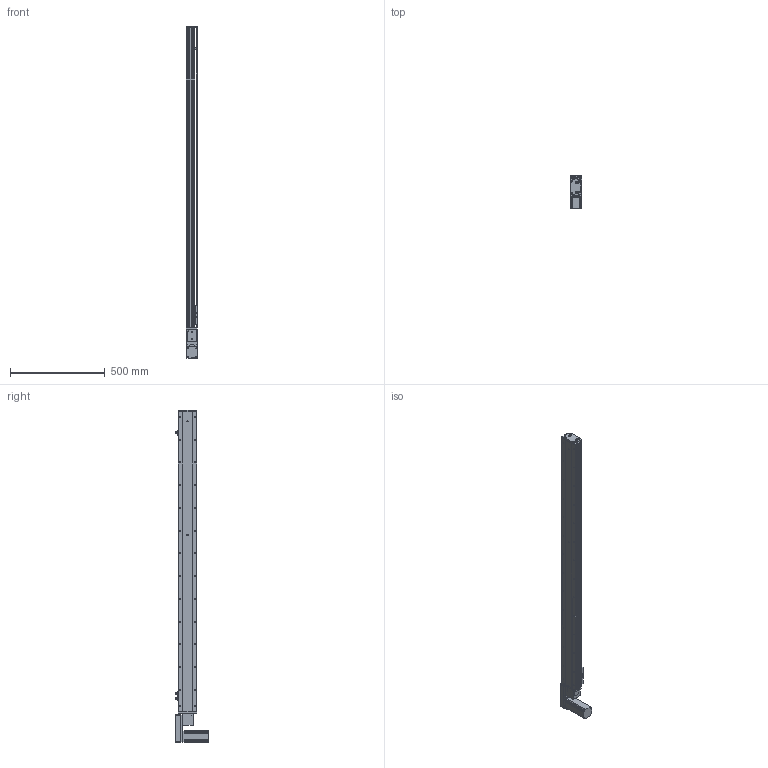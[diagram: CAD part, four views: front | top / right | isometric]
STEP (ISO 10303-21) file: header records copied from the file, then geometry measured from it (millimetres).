
FILE_DESCRIPTION (( 'STEP AP214' ), '1' );
FILE_NAME ('KSD100B-S1400-MLB-CM.STEP', '2019-08-31T02:23:05', ( '微软用户' ), ( '微软中国' ), 'SwSTEP 2.0', 'SolidWorks 2014', '' );
FILE_SCHEMA (( 'AUTOMOTIVE_DESIGN' ));
Length unit declared in the file: millimetre
Products named in the file (12): 悵誘欶奻狟殏; 100宽马达安装板连板上下折丝杆同步带; 台达ECMA－C20604AS伺服电机; U倰嫖萇EEㄜSX672; 覜茼え100遵圉猾敕; 100宽防尘板1400行程-同步带; 100宽马达安装板同步带左; 100宽同步带安装板半封闭; 100宽马达安装板同步带; 100遵傷啣肮祭湍; 100宽底板半封闭同步带1400行程; KSD100B-S1400-MLB-CM
Assembly tree (13 placements, depth 2):
  KSD100B-S1400-MLB-CM
    100宽底板半封闭同步带1400行程
    100遵傷啣肮祭湍
    100宽马达安装板同步带
    100宽同步带安装板半封闭
    100宽马达安装板同步带左
    100宽防尘板1400行程-同步带
    覜茼え100遵圉猾敕
    U倰嫖萇EEㄜSX672  x3
    台达ECMA－C20604AS伺服电机
    100宽马达安装板连板上下折丝杆同步带
    悵誘欶奻狟殏
Bounding box: 61 x 174.7 x 1753 mm (x, y, z)
Volume: 3578502.6 mm3; surface area: 1211533.6 mm2
Topology: 14 solids, 14 shells, 1597 faces, 4520 edges, 2857 vertices
Faces by surface type: cylinder 823, plane 607, cone 167
Entity records: 58053 total; most frequent: CARTESIAN_POINT 12134, DIRECTION 7872, ORIENTED_EDGE 7612, EDGE_CURVE 3806, AXIS2_PLACEMENT_3D 2893, VERTEX_POINT 2481, VECTOR 2086, LINE 2086
